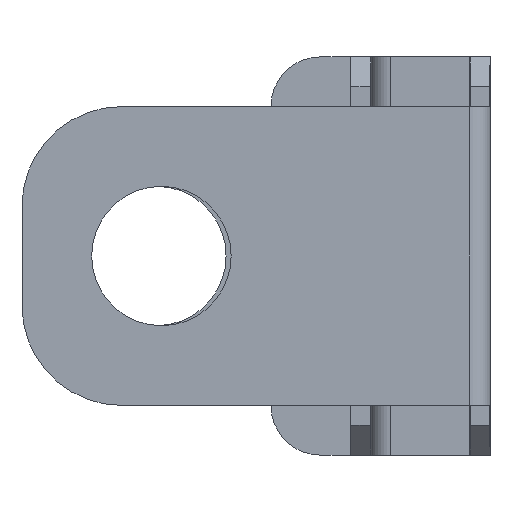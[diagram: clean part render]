
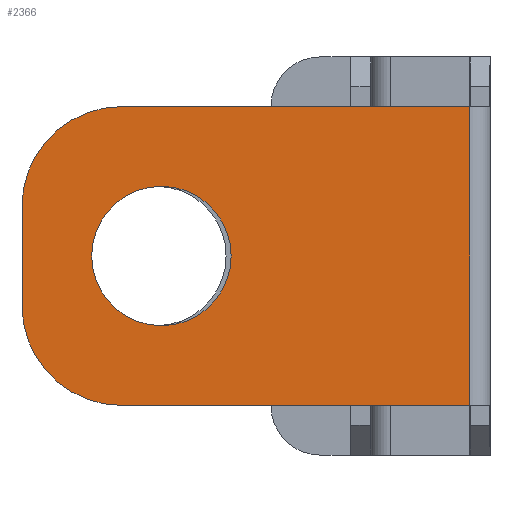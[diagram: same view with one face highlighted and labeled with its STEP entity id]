
A CAD part, left-side view. The second image highlights one B-rep face of the part: STEP entity #2366.
In plain terms, the highlighted planar face has unit normal (-1, 0, 0).
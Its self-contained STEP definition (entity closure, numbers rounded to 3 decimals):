
#78 = CARTESIAN_POINT ( 'NONE',  ( -2., 31., 20. ) ) ;
#86 = AXIS2_PLACEMENT_3D ( 'NONE', #3578, #3858, #1733 ) ;
#144 = EDGE_CURVE ( 'NONE', #406, #3651, #613, .T. ) ;
#148 = VERTEX_POINT ( 'NONE', #3752 ) ;
#161 = ORIENTED_EDGE ( 'NONE', *, *, #3075, .T. ) ;
#227 = CARTESIAN_POINT ( 'NONE',  ( -2., 45., 5. ) ) ;
#242 = DIRECTION ( 'NONE',  ( 0., 0., -1. ) ) ;
#257 = DIRECTION ( 'NONE',  ( 0., -1., 0. ) ) ;
#326 = CARTESIAN_POINT ( 'NONE',  ( -2., 0.01, 40. ) ) ;
#349 = CARTESIAN_POINT ( 'NONE',  ( -2., 35., 5. ) ) ;
#394 = EDGE_CURVE ( 'NONE', #3651, #406, #1680, .T. ) ;
#406 = VERTEX_POINT ( 'NONE', #3361 ) ;
#545 = CARTESIAN_POINT ( 'NONE',  ( -2., 0.01, 35. ) ) ;
#613 = CIRCLE ( 'NONE', #3692, 7. ) ;
#626 = PLANE ( 'NONE',  #2117 ) ;
#656 = LINE ( 'NONE', #3481, #2027 ) ;
#728 = ORIENTED_EDGE ( 'NONE', *, *, #3236, .F. ) ;
#793 = EDGE_CURVE ( 'NONE', #148, #2854, #2142, .T. ) ;
#852 = CARTESIAN_POINT ( 'NONE',  ( -2., 31., 20. ) ) ;
#979 = DIRECTION ( 'NONE',  ( 0., 0., -1. ) ) ;
#1014 = CARTESIAN_POINT ( 'NONE',  ( -2., 0.01, 5. ) ) ;
#1062 = VECTOR ( 'NONE', #979, 1000. ) ;
#1237 = EDGE_CURVE ( 'NONE', #2985, #2283, #3615, .T. ) ;
#1288 = EDGE_CURVE ( 'NONE', #2985, #3549, #3548, .T. ) ;
#1293 = DIRECTION ( 'NONE',  ( 0., 0., -1. ) ) ;
#1428 = DIRECTION ( 'NONE',  ( 0., -1., 0. ) ) ;
#1433 = EDGE_LOOP ( 'NONE', ( #1540, #2559, #1652, #2398, #161, #728 ) ) ;
#1485 = CARTESIAN_POINT ( 'NONE',  ( -2., 35., 15. ) ) ;
#1540 = ORIENTED_EDGE ( 'NONE', *, *, #1237, .F. ) ;
#1652 = ORIENTED_EDGE ( 'NONE', *, *, #3720, .T. ) ;
#1678 = ORIENTED_EDGE ( 'NONE', *, *, #394, .F. ) ;
#1680 = CIRCLE ( 'NONE', #2585, 7. ) ;
#1733 = DIRECTION ( 'NONE',  ( 0., 0., -1. ) ) ;
#2027 = VECTOR ( 'NONE', #1293, 1000. ) ;
#2117 = AXIS2_PLACEMENT_3D ( 'NONE', #2185, #2546, #3759 ) ;
#2142 = CIRCLE ( 'NONE', #3815, 10. ) ;
#2185 = CARTESIAN_POINT ( 'NONE',  ( -2., 45., 40. ) ) ;
#2229 = VECTOR ( 'NONE', #1428, 1000. ) ;
#2278 = CARTESIAN_POINT ( 'NONE',  ( -2., 35., 35. ) ) ;
#2283 = VERTEX_POINT ( 'NONE', #545 ) ;
#2366 = ADVANCED_FACE ( 'NONE', ( #3070, #3454 ), #626, .F. ) ;
#2379 = DIRECTION ( 'NONE',  ( 0., 0., 1. ) ) ;
#2398 = ORIENTED_EDGE ( 'NONE', *, *, #793, .T. ) ;
#2546 = DIRECTION ( 'NONE',  ( 1., 0., 0. ) ) ;
#2559 = ORIENTED_EDGE ( 'NONE', *, *, #1288, .T. ) ;
#2585 = AXIS2_PLACEMENT_3D ( 'NONE', #852, #3018, #2379 ) ;
#2644 = CARTESIAN_POINT ( 'NONE',  ( -2., 46.514, 35. ) ) ;
#2694 = CARTESIAN_POINT ( 'NONE',  ( -2., 31., 27. ) ) ;
#2700 = EDGE_LOOP ( 'NONE', ( #1678, #3377 ) ) ;
#2854 = VERTEX_POINT ( 'NONE', #349 ) ;
#2909 = VECTOR ( 'NONE', #257, 1000. ) ;
#2985 = VERTEX_POINT ( 'NONE', #2278 ) ;
#3018 = DIRECTION ( 'NONE',  ( -1., 0., 0. ) ) ;
#3070 = FACE_BOUND ( 'NONE', #2700, .T. ) ;
#3075 = EDGE_CURVE ( 'NONE', #2854, #3486, #3591, .T. ) ;
#3236 = EDGE_CURVE ( 'NONE', #2283, #3486, #3389, .T. ) ;
#3361 = CARTESIAN_POINT ( 'NONE',  ( -2., 31., 13. ) ) ;
#3377 = ORIENTED_EDGE ( 'NONE', *, *, #144, .F. ) ;
#3389 = LINE ( 'NONE', #326, #1062 ) ;
#3431 = DIRECTION ( 'NONE',  ( -1., 0., 0. ) ) ;
#3454 = FACE_OUTER_BOUND ( 'NONE', #1433, .T. ) ;
#3481 = CARTESIAN_POINT ( 'NONE',  ( -2., 45., 40. ) ) ;
#3486 = VERTEX_POINT ( 'NONE', #1014 ) ;
#3548 = CIRCLE ( 'NONE', #86, 10. ) ;
#3549 = VERTEX_POINT ( 'NONE', #3667 ) ;
#3578 = CARTESIAN_POINT ( 'NONE',  ( -2., 35., 25. ) ) ;
#3591 = LINE ( 'NONE', #227, #2229 ) ;
#3615 = LINE ( 'NONE', #2644, #2909 ) ;
#3642 = DIRECTION ( 'NONE',  ( -1., 0., 0. ) ) ;
#3651 = VERTEX_POINT ( 'NONE', #2694 ) ;
#3667 = CARTESIAN_POINT ( 'NONE',  ( -2., 45., 25. ) ) ;
#3692 = AXIS2_PLACEMENT_3D ( 'NONE', #78, #3431, #3730 ) ;
#3720 = EDGE_CURVE ( 'NONE', #3549, #148, #656, .T. ) ;
#3730 = DIRECTION ( 'NONE',  ( 0., 0., 1. ) ) ;
#3752 = CARTESIAN_POINT ( 'NONE',  ( -2., 45., 15. ) ) ;
#3759 = DIRECTION ( 'NONE',  ( 0., 0., -1. ) ) ;
#3815 = AXIS2_PLACEMENT_3D ( 'NONE', #1485, #3642, #242 ) ;
#3858 = DIRECTION ( 'NONE',  ( -1., 0., 0. ) ) ;
